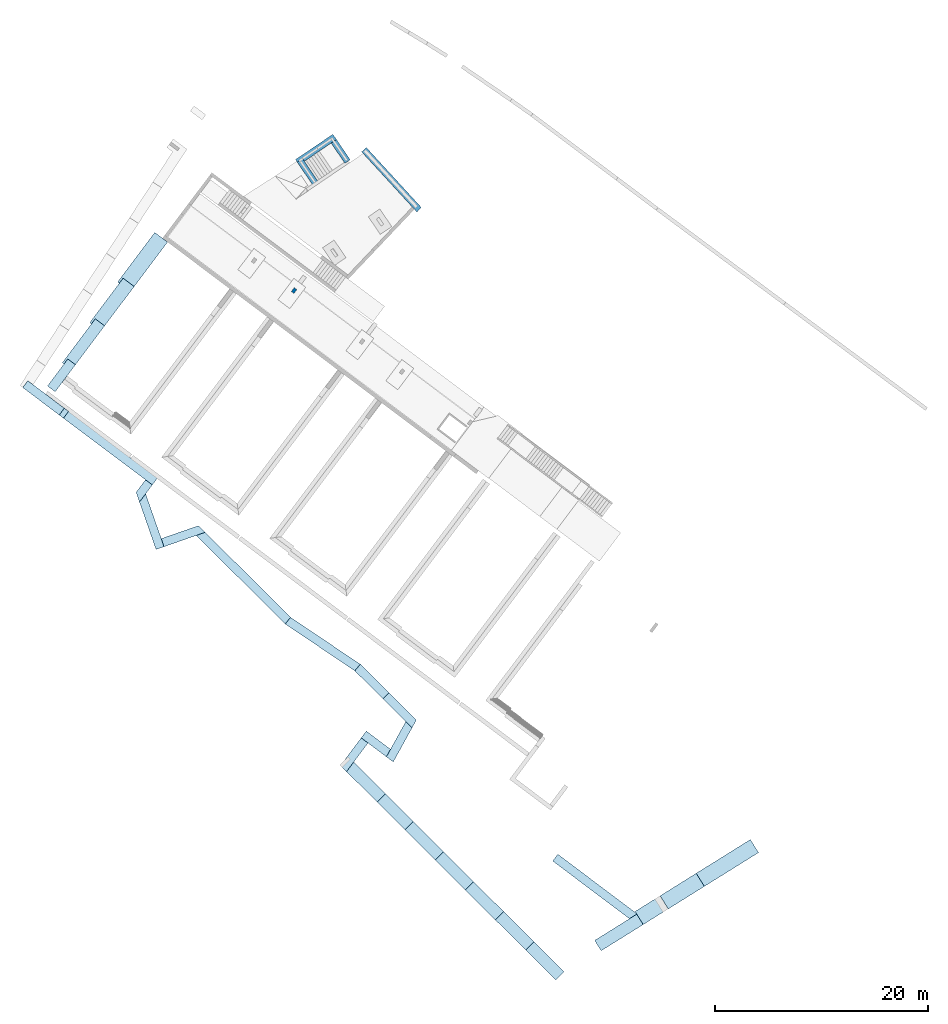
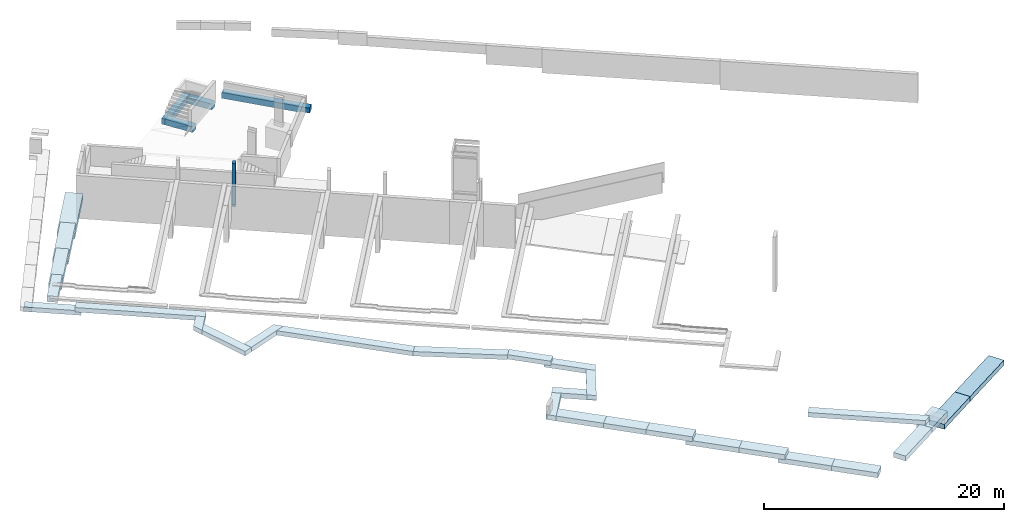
# One storey, part 1 of 11: 32 footings, 1 column.
"""IFC2X3 building model written with IfcOpenShell, lengths in metres."""

from ifc_helpers import new_model, entity, si_unit, converted_unit, derived_unit, direction, frame, frame_2d, origin, origin_2d_with_axis, place, context, subcontext, project, spatial, polyline, rectangle, outline, extrude, faceted_brep, source, transform, mapped, material, type_object, type_shapes, element, save


model = new_model("IFC2X3")

# Units and contexts
model_context = context("Model", 3, precision=1e-05, world=origin(), true_north=direction((6.123031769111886e-17, 1.0)))
body_context = subcontext(model_context, "Body", "Model", "MODEL_VIEW")
ifc_project = project(units=[si_unit("LENGTHUNIT", "METRE"), si_unit("AREAUNIT", "SQUARE_METRE"), si_unit("VOLUMEUNIT", "CUBIC_METRE"), converted_unit("PLANEANGLEUNIT", "DEGREE", entity("IfcRatioMeasure", 0.017453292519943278), si_unit("PLANEANGLEUNIT", "RADIAN"), dimensions=[0, 0, 0, 0, 0, 0, 0]), si_unit("MASSUNIT", "GRAM", prefix="KILO"), derived_unit("MASSDENSITYUNIT", [(si_unit("MASSUNIT", "GRAM", prefix="KILO"), 1), (si_unit("LENGTHUNIT", "METRE"), -3)]), derived_unit("IONCONCENTRATIONUNIT", [(si_unit("MASSUNIT", "GRAM", prefix="KILO"), 1), (si_unit("LENGTHUNIT", "METRE"), -3)]), derived_unit("MOMENTOFINERTIAUNIT", [(si_unit("LENGTHUNIT", "METRE"), 4)]), si_unit("TIMEUNIT", "SECOND"), si_unit("FREQUENCYUNIT", "HERTZ"), si_unit("THERMODYNAMICTEMPERATUREUNIT", "DEGREE_CELSIUS"), derived_unit("THERMALTRANSMITTANCEUNIT", [(si_unit("MASSUNIT", "GRAM", prefix="KILO"), 1), (si_unit("THERMODYNAMICTEMPERATUREUNIT", "KELVIN"), -1), (si_unit("TIMEUNIT", "SECOND"), -3)]), derived_unit("THERMALCONDUCTANCEUNIT", [(si_unit("MASSUNIT", "GRAM", prefix="KILO"), 1), (si_unit("THERMODYNAMICTEMPERATUREUNIT", "KELVIN"), -1), (si_unit("TIMEUNIT", "SECOND"), -3), (si_unit("LENGTHUNIT", "METRE"), 1)]), derived_unit("VOLUMETRICFLOWRATEUNIT", [(si_unit("LENGTHUNIT", "METRE"), 3), (si_unit("TIMEUNIT", "SECOND"), -1)]), derived_unit("MASSFLOWRATEUNIT", [(si_unit("MASSUNIT", "GRAM", prefix="KILO"), 1), (si_unit("TIMEUNIT", "SECOND"), -1)]), derived_unit("ROTATIONALFREQUENCYUNIT", [(si_unit("TIMEUNIT", "SECOND"), -1)]), si_unit("ELECTRICCURRENTUNIT", "AMPERE"), si_unit("ELECTRICVOLTAGEUNIT", "VOLT"), si_unit("POWERUNIT", "WATT"), si_unit("FORCEUNIT", "NEWTON", prefix="KILO"), si_unit("ILLUMINANCEUNIT", "LUX"), si_unit("LUMINOUSFLUXUNIT", "LUMEN"), si_unit("LUMINOUSINTENSITYUNIT", "CANDELA"), derived_unit("USERDEFINED", [(si_unit("MASSUNIT", "GRAM", prefix="KILO"), -1), (si_unit("LENGTHUNIT", "METRE"), -2), (si_unit("TIMEUNIT", "SECOND"), 3), (si_unit("LUMINOUSFLUXUNIT", "LUMEN"), 1)]), derived_unit("USERDEFINED", [(si_unit("MASSUNIT", "GRAM", prefix="KILO"), 1), (si_unit("TIMEUNIT", "SECOND"), -3), (si_unit("LENGTHUNIT", "METRE"), 3), (si_unit("ELECTRICCURRENTUNIT", "AMPERE"), -2)]), derived_unit("SOUNDPOWERUNIT", [(si_unit("MASSUNIT", "GRAM", prefix="KILO"), 1), (si_unit("TIMEUNIT", "SECOND"), -3), (si_unit("LENGTHUNIT", "METRE"), 2)]), derived_unit("SOUNDPRESSUREUNIT", [(si_unit("MASSUNIT", "GRAM", prefix="KILO"), 1), (si_unit("LENGTHUNIT", "METRE"), -1), (si_unit("TIMEUNIT", "SECOND"), -2)]), derived_unit("LINEARVELOCITYUNIT", [(si_unit("LENGTHUNIT", "METRE"), 1), (si_unit("TIMEUNIT", "SECOND"), -1)]), si_unit("PRESSUREUNIT", "PASCAL"), derived_unit("USERDEFINED", [(si_unit("MASSUNIT", "GRAM", prefix="KILO"), 1), (si_unit("LENGTHUNIT", "METRE"), -2), (si_unit("TIMEUNIT", "SECOND"), -2)]), derived_unit("LINEARFORCEUNIT", [(si_unit("MASSUNIT", "GRAM", prefix="KILO"), 1), (si_unit("TIMEUNIT", "SECOND"), -2)]), derived_unit("PLANARFORCEUNIT", [(si_unit("MASSUNIT", "GRAM", prefix="KILO"), 1), (si_unit("LENGTHUNIT", "METRE"), -1), (si_unit("TIMEUNIT", "SECOND"), -2)]), derived_unit("SPECIFICHEATCAPACITYUNIT", [(si_unit("THERMODYNAMICTEMPERATUREUNIT", "KELVIN"), -1), (si_unit("LENGTHUNIT", "METRE"), 2), (si_unit("TIMEUNIT", "SECOND"), -2)]), derived_unit("HEATINGVALUEUNIT", [(si_unit("LENGTHUNIT", "METRE"), 2), (si_unit("TIMEUNIT", "SECOND"), -2)]), derived_unit("VAPORPERMEABILITYUNIT", [(si_unit("LENGTHUNIT", "METRE"), -1), (si_unit("TIMEUNIT", "SECOND"), 1)]), derived_unit("DYNAMICVISCOSITYUNIT", [(si_unit("MASSUNIT", "GRAM", prefix="KILO"), 1), (si_unit("TIMEUNIT", "SECOND"), -1), (si_unit("LENGTHUNIT", "METRE"), -1)]), derived_unit("THERMALEXPANSIONCOEFFICIENTUNIT", [(si_unit("THERMODYNAMICTEMPERATUREUNIT", "KELVIN"), -1)]), derived_unit("MODULUSOFELASTICITYUNIT", [(si_unit("MASSUNIT", "GRAM", prefix="KILO"), 1), (si_unit("LENGTHUNIT", "METRE"), -1), (si_unit("TIMEUNIT", "SECOND"), -2)]), derived_unit("ISOTHERMALMOISTURECAPACITYUNIT", [(si_unit("LENGTHUNIT", "METRE"), 3), (si_unit("MASSUNIT", "GRAM", prefix="KILO"), -1)]), derived_unit("MOISTUREDIFFUSIVITYUNIT", [(si_unit("TIMEUNIT", "SECOND"), -1), (si_unit("LENGTHUNIT", "METRE"), 2)])], contexts=[model_context])

# Site, building, storey
site_placement = place(None, origin())
site = spatial("IfcSite", under=ifc_project, at=site_placement, Name="Default", CompositionType="ELEMENT")
building_placement = place(site_placement, frame((0.0, 0.0, 235.0), z_axis=(0.0, 0.0, 1.0), x_axis=(-0.7996477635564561, 0.6004693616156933, 0.0)))
building = spatial("IfcBuilding", under=site, at=building_placement, CompositionType="ELEMENT")
storey_placement = place(building_placement, frame((0.0, 0.0, -4.459999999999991)))
storey = spatial("IfcBuildingStorey", under=building, at=storey_placement, Name="PS1- Vestuari", CompositionType="ELEMENT", Elevation=-4.459999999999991)

# Footings
ifc_material = material(Name="_Formigó- T1- STR")
footing_1_placement = place(storey_placement, frame((57.015714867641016, -54.75195796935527, 0.30999999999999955)))
element("IfcFooting", 1, at=footing_1_placement, inside=storey, material=ifc_material, Name="Cimentación de muro:STR- S- Formigó- Sabata mur 60", ObjectType="Cimentación de muro:STR- S- Formigó- Sabata mur 60", PredefinedType="STRIP_FOOTING", context=body_context, shape_type="Brep", body=[
    faceted_brep([(7.6310820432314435, 0.589862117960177, 0.0), (7.6310820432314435, 0.589862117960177, 0.6000000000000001), (7.521251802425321, 0.0, 0.6000000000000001), (7.521251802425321, 0.0, 0.0), (0.7092681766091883, 1.8786793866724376, 0.6000000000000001), (0.41362097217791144, 1.933727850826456, 0.6000000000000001), (0.06869923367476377, 1.9979510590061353, 0.6000000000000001), (0.0, 1.4004304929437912, 0.6000000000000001), (1.0541899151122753, 1.8144561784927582, 0.0), (1.0541899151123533, 1.8144561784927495, 0.1), (0.7092681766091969, 1.8786793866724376, 0.1), (0.41362097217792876, 1.9337278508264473, 0.1), (0.06869923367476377, 1.9979510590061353, 0.1), (0.9854906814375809, 1.2169356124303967, 0.0), (0.0, 1.4004304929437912, 0.1), (0.9854906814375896, 1.2169356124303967, 0.1)], [[[0, 1, 2, 3]], [[1, 4, 5, 6, 7, 2]], [[1, 0, 8, 9, 10, 11, 12, 6, 5, 4]], [[0, 3, 13, 8]], [[3, 2, 7, 14, 15, 13]], [[7, 6, 12, 14]], [[9, 15, 14, 12, 11, 10]], [[15, 9, 8, 13]]]),
])
footing_2_placement = place(storey_placement, frame((66.24881883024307, -50.311702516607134, 0.30999999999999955)))
element("IfcFooting", 2, at=footing_2_placement, inside=storey, material=ifc_material, Name="Cimentación de muro:STR- S- Formigó- Sabata mur 60 mur 20", ObjectType="Cimentación de muro:STR- S- Formigó- Sabata mur 60 mur 20", PredefinedType="STRIP_FOOTING", context=body_context, shape_type="SweptSolid", body=[
    extrude(rectangle(XDim=2.5949999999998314, YDim=0.5999999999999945, at=frame_2d((0.19949999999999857, -0.06000000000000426), x_axis=(1.0, 0.0))), frame((1.4939650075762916, 0.5829637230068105, 0.0), z_axis=(0.0, 0.0, 1.0), x_axis=(-0.9460037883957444, 0.3241555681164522, 0.0)), (0.0, 0.0, 1.0), 0.5999999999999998),
])
footing_3_placement = place(storey_placement, frame((67.23672970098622, -53.86186301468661, 0.30999999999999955)))
element("IfcFooting", 3, at=footing_3_placement, inside=storey, material=ifc_material, Name="Cimentación de muro:STR- S- Formigó- Sabata mur 60 mur 20", ObjectType="Cimentación de muro:STR- S- Formigó- Sabata mur 60 mur 20", PredefinedType="STRIP_FOOTING", context=body_context, shape_type="SweptSolid", body=[
    extrude(outline(polyline([(-0.34285714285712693, -1.9071428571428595), (-0.04285714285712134, -1.9071428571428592), (-0.042857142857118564, -1.3071428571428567), (0.25714285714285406, -1.3071428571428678), (0.2571428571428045, 1.7428571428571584), (0.2571428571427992, 2.342857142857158), (-0.3428571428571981, 2.342857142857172), (-0.34285714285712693, -1.9071428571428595)])), frame((1.0027083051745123, 2.3274907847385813, 0.0), z_axis=(0.0, 0.0, 1.0), x_axis=(-0.9460037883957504, 0.32415556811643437, 0.0)), (0.0, 0.0, 1.0), 0.6000000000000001),
])
footing_4_placement = place(storey_placement, frame((65.06565100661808, -53.667369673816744, 0.30999999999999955)))
element("IfcFooting", 4, at=footing_4_placement, inside=storey, material=ifc_material, Name="Cimentación de muro:STR- S- Formigó- Sabata mur 60 mur 20", ObjectType="Cimentación de muro:STR- S- Formigó- Sabata mur 60 mur 20", PredefinedType="STRIP_FOOTING", context=body_context, shape_type="SweptSolid", body=[
    extrude(rectangle(XDim=2.2949999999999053, YDim=0.5999999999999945, at=frame_2d((-9.547918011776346e-15, 1.304512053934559e-15), x_axis=(1.0, 0.0))), frame((1.182786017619, 0.6557696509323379, 0.0), z_axis=(0.0, 0.0, 1.0), x_axis=(0.9460037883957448, -0.32415556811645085, 0.0)), (0.0, 0.0, 1.0), 0.6),
])
footing_5_placement = place(storey_placement, frame((74.14514768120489, -21.99019175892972, 3.289999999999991)))
element("IfcFooting", 5, at=footing_5_placement, inside=storey, material=ifc_material, Name="Cimentación de muro:STR- S- Formigó- Sabata mur 90", ObjectType="Cimentación de muro:STR- S- Formigó- Sabata mur 90", PredefinedType="STRIP_FOOTING", context=body_context, shape_type="SweptSolid", body=[
    extrude(rectangle(XDim=3.180000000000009, YDim=0.9000000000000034, at=frame_2d((-0.1262499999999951, 0.11250000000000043), x_axis=(1.0, 0.0))), frame((0.33750000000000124, 1.4637500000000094, 0.0), z_axis=(0.0, 0.0, 1.0), x_axis=(0.0, -1.0, 0.0)), (0.0, 0.0, 1.0), 0.6),
])
footing_6_placement = place(storey_placement, frame((74.14514768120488, -26.56519175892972, 2.759999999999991)))
element("IfcFooting", 6, at=footing_6_placement, inside=storey, material=ifc_material, Name="Cimentación de muro:STR- S- Formigó- Sabata mur 110- T1", ObjectType="Cimentación de muro:STR- S- Formigó- Sabata mur 110- T1", PredefinedType="STRIP_FOOTING", context=body_context, shape_type="Brep", body=[
    faceted_brep([(1.1000000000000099, 5.175000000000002, 0.6000000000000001), (1.1000000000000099, 5.175000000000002, 0.0), (0.0, 5.175000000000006, 0.0), (0.0, 5.175000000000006, 0.5300000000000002), (0.900000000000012, 5.175000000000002, 0.5300000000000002), (0.900000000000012, 5.175000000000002, 0.6000000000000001), (1.1000000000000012, 0.0, 0.0), (1.1000000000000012, 0.0, 0.6000000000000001), (0.0, 0.0, 0.6000000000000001), (0.0, 0.0, 0.0), (0.900000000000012, 4.574999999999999, 0.6000000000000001), (0.0, 4.574999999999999, 0.6000000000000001), (0.0, 0.6000000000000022, 0.0), (0.0, 4.574999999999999, 0.5300000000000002), (0.900000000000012, 4.574999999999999, 0.5300000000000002)], [[[0, 1, 2, 3, 4, 5]], [[6, 7, 8, 9]], [[7, 0, 5, 10, 11, 8]], [[1, 0, 7, 6]], [[2, 1, 6, 9, 12]], [[9, 8, 11, 13, 3, 2, 12]], [[14, 13, 11, 10]], [[14, 10, 5, 4]], [[13, 14, 4, 3]]]),
])
footing_7_placement = place(storey_placement, frame((74.14514768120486, -31.190191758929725, 2.1599999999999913)))
element("IfcFooting", 7, at=footing_7_placement, inside=storey, material=ifc_material, Name="Cimentación de muro:STR- S- Formigó- Sabata mur 130 t2 2", ObjectType="Cimentación de muro:STR- S- Formigó- Sabata mur 130 t2 2", PredefinedType="STRIP_FOOTING", context=body_context, shape_type="SweptSolid", body=[
    extrude(rectangle(XDim=5.225, YDim=1.299999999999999, at=frame_2d((-0.40250000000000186, 0.13000000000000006), x_axis=(1.0, 0.0))), frame((0.5200000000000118, 2.2100000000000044, 0.0), z_axis=(0.0, 0.0, 1.0), x_axis=(0.0, -1.0, 0.0)), (0.0, 0.0, 1.0), 0.5999999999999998),
])
footing_8_placement = place(storey_placement, frame((74.14514768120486, -36.41519175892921, 1.5599999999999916)))
element("IfcFooting", 8, at=footing_8_placement, inside=storey, material=ifc_material, Name="Cimentación de muro:STR- S- Formigó- Sabata mur 150 t3", ObjectType="Cimentación de muro:STR- S- Formigó- Sabata mur 150 t3", PredefinedType="STRIP_FOOTING", context=body_context, shape_type="SweptSolid", body=[
    extrude(rectangle(XDim=5.824999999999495, YDim=1.499999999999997, at=origin_2d_with_axis()), frame((0.7500000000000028, 2.9124999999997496, 0.0), z_axis=(0.0, 0.0, 1.0), x_axis=(0.0, -1.0, 0.0)), (0.0, 0.0, 1.0), 0.6000000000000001),
])
footing_9_placement = place(storey_placement, frame((61.58180321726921, -18.093410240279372, 3.509999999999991)))
element("IfcFooting", 9, at=footing_9_placement, inside=storey, material=ifc_material, Name="Cimentación de muro:STR- S- Formigó- Sabata 80- m30-h45", ObjectType="Cimentación de muro:STR- S- Formigó- Sabata 80- m30-h45", PredefinedType="STRIP_FOOTING", context=body_context, shape_type="SweptSolid", body=[
    extrude(rectangle(XDim=10.943239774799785, YDim=0.8, at=frame_2d((-0.9343239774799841, 0.07999999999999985), x_axis=(1.0, 0.0))), frame((4.537295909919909, 0.48000000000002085, 0.0), z_axis=(0.0, 0.0, 1.0), x_axis=(-1.0, 0.0, 0.0)), (0.0, 0.0, 1.0), 0.44999999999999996),
])
footing_10_placement = place(storey_placement, frame((72.02504299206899, -18.093422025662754, 3.209999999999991)))
element("IfcFooting", 10, at=footing_10_placement, inside=storey, material=ifc_material, Name="Cimentación de muro:STR- S- Formigó- Sabata 80- m30-h45", ObjectType="Cimentación de muro:STR- S- Formigó- Sabata 80- m30-h45", PredefinedType="STRIP_FOOTING", context=body_context, shape_type="SweptSolid", body=[
    extrude(outline(polyline([(-3.0338265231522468, -0.25), (1.7669132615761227, -0.25), (1.7669132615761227, 0.05000000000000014), (1.2669132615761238, 0.05000000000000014), (1.2669132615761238, 0.2), (-3.0338265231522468, 0.2), (-3.0338265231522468, -0.25)])), frame((1.7669132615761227, 0.0, 0.25), z_axis=(0.0, 1.0, 0.0), x_axis=(-1.0, 0.0, 0.0)), (0.0, 0.0, 1.0), 0.8),
])
footing_11_placement = place(storey_placement, frame((61.58180321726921, -17.293410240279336, 3.509999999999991)))
element("IfcFooting", 11, at=footing_11_placement, inside=storey, material=ifc_material, Name="Cimentación de muro:STR- S- Formigó- Sabata 80- m30-h45", ObjectType="Cimentación de muro:STR- S- Formigó- Sabata 80- m30-h45", PredefinedType="STRIP_FOOTING", context=body_context, shape_type="SweptSolid", body=[
    extrude(outline(polyline([(-1.1032413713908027, -0.31999999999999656), (-0.13956908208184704, -0.31999999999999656), (0.9043884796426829, -0.31999999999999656), (0.904388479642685, 0.4800000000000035), (-0.5659665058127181, 0.4800000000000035), (-1.1032413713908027, -0.31999999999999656)])), frame((0.3199999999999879, 0.904388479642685, 0.0), z_axis=(0.0, 0.0, 1.0), x_axis=(0.0, -1.0, 0.0)), (0.0, 0.0, 1.0), 0.44999999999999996),
])
footing_12_placement = place(storey_placement, frame((57.20747274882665, -16.249452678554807, 3.509999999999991)))
element("IfcFooting", 12, at=footing_12_placement, inside=storey, material=ifc_material, Name="Cimentación de muro:STR- S- Formigó- Sabata 80- m30-h45", ObjectType="Cimentación de muro:STR- S- Formigó- Sabata 80- m30-h45", PredefinedType="STRIP_FOOTING", context=body_context, shape_type="SweptSolid", body=[
    extrude(outline(polyline([(-1.999018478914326, -2.402568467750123), (-1.0353461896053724, -2.402568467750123), (1.602879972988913, 1.525739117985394), (0.9387537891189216, 1.9717620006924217), (0.4927309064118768, 1.3076358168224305), (-1.999018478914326, -2.402568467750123)])), frame((1.9717620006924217, 1.999018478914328, 0.0), z_axis=(0.0, 0.0, 1.0), x_axis=(0.0, 1.0, 0.0)), (0.0, 0.0, 1.0), 0.44999999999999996),
])
footing_13_placement = place(storey_placement, frame((54.922062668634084, -16.83832788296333, 3.509999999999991)))
element("IfcFooting", 13, at=footing_13_placement, inside=storey, material=ifc_material, Name="Cimentación de muro:STR- S- Formigó- Sabata 80- m30-h45", ObjectType="Cimentación de muro:STR- S- Formigó- Sabata 80- m30-h45", PredefinedType="STRIP_FOOTING", context=body_context, shape_type="SweptSolid", body=[
    extrude(outline(polyline([(-1.5068909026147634, -0.4799999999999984), (2.2039997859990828, -0.47999999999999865), (2.203999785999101, 0.3199999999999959), (-1.0059284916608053, 0.32000000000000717), (-1.8951801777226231, 0.3200000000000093), (-1.5068909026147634, -0.4799999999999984)])), frame((1.3222676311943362, 1.5185708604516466, 0.0), z_axis=(0.0, 0.0, 1.0), x_axis=(0.5575286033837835, 0.8301577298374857, 0.0)), (0.0, 0.0, 1.0), 0.44999999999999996),
])
footing_14_placement = place(storey_placement, frame((43.70030007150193, -16.71464634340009, 3.509999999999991)))
element("IfcFooting", 14, at=footing_14_placement, inside=storey, material=ifc_material, Name="Cimentación de muro:STR- S- Formigó- Sabata 80- m30-h45", ObjectType="Cimentación de muro:STR- S- Formigó- Sabata 80- m30-h45", PredefinedType="STRIP_FOOTING", context=body_context, shape_type="SweptSolid", body=[
    extrude(outline(polyline([(-5.743814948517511, -0.40000000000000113), (5.588088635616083, -0.39999999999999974), (5.976377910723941, 0.4000000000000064), (-5.820651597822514, 0.40000000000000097), (-5.743814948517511, -0.40000000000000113)])), frame((5.743621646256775, 1.173331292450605, 0.0), z_axis=(0.0, 0.0, 1.0), x_axis=(0.9902804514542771, -0.13908496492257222, 0.0)), (0.0, 0.0, 1.0), 0.44999999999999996),
])
footing_15_placement = place(storey_placement, frame((35.81381563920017, -15.54875412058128, 3.509999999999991)))
element("IfcFooting", 15, at=footing_15_placement, inside=storey, material=ifc_material, Name="Cimentación de muro:STR- S- Formigó- Sabata 80- m30-h45", ObjectType="Cimentación de muro:STR- S- Formigó- Sabata 80- m30-h45", PredefinedType="STRIP_FOOTING", context=body_context, shape_type="SweptSolid", body=[
    extrude(outline(polyline([(-0.024334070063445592, -3.930485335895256), (0.7793473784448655, -3.930485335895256), (0.024334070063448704, 3.9304853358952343), (-0.7793473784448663, 3.9304853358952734), (-0.024334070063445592, -3.930485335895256)])), frame((3.9608312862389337, 0.6065581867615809, 0.0), z_axis=(0.0, 0.0, 1.0), x_axis=(0.04377124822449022, 0.9990415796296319, 0.0)), (0.0, 0.0, 1.0), 0.4499999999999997),
])
footing_16_placement = place(storey_placement, frame((32.042413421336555, -15.548754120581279, 3.5699999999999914)))
element("IfcFooting", 16, at=footing_16_placement, inside=storey, material=ifc_material, Name="Cimentación de muro:STR- S- Formigó- Sabata 80- m30-h45", ObjectType="Cimentación de muro:STR- S- Formigó- Sabata 80- m30-h45", PredefinedType="STRIP_FOOTING", context=body_context, shape_type="SweptSolid", body=[
    extrude(outline(polyline([(-1.456666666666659, -0.39999999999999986), (-0.8566666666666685, -0.4000000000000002), (2.3517516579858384, -0.3999999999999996), (2.27491500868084, 0.40000000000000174), (-0.8566666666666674, 0.4000000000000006), (-1.456666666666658, 0.4000000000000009), (-1.456666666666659, -0.39999999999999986)])), frame((1.4981425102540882, 0.7232054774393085, 0.0), z_axis=(0.0, 0.0, 1.0), x_axis=(0.9902804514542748, -0.1390849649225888, 0.0)), (0.0, 0.0, 1.0), 0.4499999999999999),
])
footing_17_placement = place(storey_placement, frame((28.328113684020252, -15.102511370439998, 3.329999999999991)))
element("IfcFooting", 17, at=footing_17_placement, inside=storey, material=ifc_material, Name="Cimentación de muro:STR- S- Formigó- Sabata 80- m30-h45", ObjectType="Cimentación de muro:STR- S- Formigó- Sabata 80- m30-h45", PredefinedType="STRIP_FOOTING", context=body_context, shape_type="Brep", body=[
    faceted_brep([(4.308468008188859, 0.0, 0.0), (4.419735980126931, 0.7922243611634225, 0.0), (4.419735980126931, 0.7922243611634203, 0.23999999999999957), (4.308468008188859, 0.0, 0.23999999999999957), (0.0, 1.4129766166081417, 0.4499999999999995), (0.11689019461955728, 0.5887074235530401, 0.4499999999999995), (3.714299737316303, 0.08345097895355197, 0.4499999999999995), (3.825567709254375, 0.8756753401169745, 0.4499999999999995), (0.8244243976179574, 1.297186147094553, 0.4499999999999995), (0.11689019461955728, 0.5887074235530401, 0.0), (3.714299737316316, 0.08345097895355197, 0.23999999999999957), (0.0, 1.4129766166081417, 0.0), (0.8244243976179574, 1.297186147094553, 0.0), (3.8255677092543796, 0.8756753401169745, 0.23999999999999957)], [[[0, 1, 2, 3]], [[4, 5, 6, 7, 8]], [[9, 0, 3, 10, 6, 5]], [[1, 0, 9, 11, 12]], [[1, 12, 11, 4, 8, 7, 13, 2]], [[10, 13, 7, 6]], [[13, 10, 3, 2]], [[5, 4, 11, 9]]]),
])
footing_18_placement = place(storey_placement, frame((27.81410587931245, -13.805325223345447, 3.329999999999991)))
element("IfcFooting", 18, at=footing_18_placement, inside=storey, material=ifc_material, Name="Cimentación de muro:STR- S- Formigó- Sabata 80- m30-h45", ObjectType="Cimentación de muro:STR- S- Formigó- Sabata 80- m30-h45", PredefinedType="STRIP_FOOTING", context=body_context, shape_type="SweptSolid", body=[
    extrude(outline(polyline([(-1.565840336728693, -0.4000000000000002), (-0.7578362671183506, -0.40000000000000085), (2.0950292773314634, -0.40000000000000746), (2.3254268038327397, 0.3999999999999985), (-0.6443877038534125, 0.400000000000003), (-1.4523917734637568, 0.40000000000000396), (-1.565840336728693, -0.4000000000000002)])), frame((0.6158908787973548, 2.2462288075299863, 0.0), z_axis=(0.0, 0.0, 1.0), x_axis=(0.14040593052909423, -0.9900940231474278, 0.0)), (0.0, 0.0, 1.0), 0.4499999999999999),
])
footing_19_placement = place(storey_placement, frame((27.814105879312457, -10.864929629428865, 3.2799999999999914)))
element("IfcFooting", 19, at=footing_19_placement, inside=storey, material=ifc_material, Name="Cimentación de muro:STR- S- Formigó- Sabata 80- m30-h50", ObjectType="Cimentación de muro:STR- S- Formigó- Sabata 80- m30-h50", PredefinedType="STRIP_FOOTING", context=body_context, shape_type="Brep", body=[
    faceted_brep([(3.7692543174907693, 0.0, 0.5), (3.7692543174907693, 0.8, 0.5), (2.9692543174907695, 0.8, 0.5), (0.8080040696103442, 0.8, 0.5), (0.921452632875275, 0.0, 0.5), (0.11344856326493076, 0.0, 0.0), (3.7692543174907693, 0.0, 0.0), (0.921452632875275, 0.0, 0.050000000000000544), (0.11344856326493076, 0.0, 0.050000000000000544), (0.0, 0.8, 0.0), (2.9692543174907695, 0.8, 0.0), (3.7692543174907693, 0.8, 0.0), (0.0, 0.8, 0.050000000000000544), (0.8080040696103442, 0.8, 0.050000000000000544)], [[[0, 1, 2, 3, 4]], [[5, 6, 0, 4, 7, 8]], [[6, 5, 9, 10, 11]], [[11, 10, 9, 12, 13, 3, 2, 1]], [[9, 5, 8, 12]], [[13, 7, 4, 3]], [[7, 13, 12, 8]], [[1, 0, 6, 11]]]),
])
footing_20_placement = place(storey_placement, frame((30.783360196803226, -10.064929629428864, 3.2799999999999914)))
element("IfcFooting", 20, at=footing_20_placement, inside=storey, material=ifc_material, Name="Cimentación de muro:STR- S- Formigó- Sabata 80- m30-h50", ObjectType="Cimentación de muro:STR- S- Formigó- Sabata 80- m30-h50", PredefinedType="STRIP_FOOTING", context=body_context, shape_type="SweptSolid", body=[
    extrude(outline(polyline([(-1.4508035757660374, -0.4), (-0.340007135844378, -0.4), (1.9114513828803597, -0.4), (1.9114513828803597, 0.4), (-0.6936485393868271, 0.4), (-1.3384435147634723, 0.4), (-1.4508035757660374, -0.4)])), frame((0.4, 1.9114513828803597, 0.0), z_axis=(0.0, 0.0, 1.0), x_axis=(0.0, -1.0, 0.0)), (0.0, 0.0, 1.0), 0.5),
])
footing_21_placement = place(storey_placement, frame((-1.1667254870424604, -15.064560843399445, 1.0350000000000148)))
element("IfcFooting", 21, at=footing_21_placement, inside=storey, material=ifc_material, Name="Cimentación de muro:STR- S- Formigó- Sabata MP1 +2m", ObjectType="Cimentación de muro:STR- S- Formigó- Sabata MP1 +2m", PredefinedType="STRIP_FOOTING", context=body_context, shape_type="SweptSolid", body=[
    extrude(rectangle(XDim=2.7763893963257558, YDim=1.4500000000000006, at=frame_2d((-0.19704867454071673, -0.006263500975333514), x_axis=(1.0, 0.0))), frame((1.1116305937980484, 1.3701938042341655, 0.0), z_axis=(0.0, 0.0, 1.0), x_axis=(-0.3606427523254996, -0.9327040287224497, 0.0)), (0.0, 0.0, 1.0), 0.5),
])
footing_22_placement = place(storey_placement, frame((-2.6097684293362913, -18.796597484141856, 0.03500000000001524)))
element("IfcFooting", 22, at=footing_22_placement, inside=storey, material=ifc_material, Name="Cimentación de muro:STR- S- Formigó- Sabata MP1 +2m", ObjectType="Cimentación de muro:STR- S- Formigó- Sabata MP1 +2m", PredefinedType="STRIP_FOOTING", context=body_context, shape_type="SweptSolid", body=[
    extrude(rectangle(XDim=4.601308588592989, YDim=1.4500000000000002, at=frame_2d((-1.1102230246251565e-15, -5.551115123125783e-17), x_axis=(1.0, 0.0))), frame((1.5059247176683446, 2.407295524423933, 0.0), z_axis=(0.0, 0.0, 1.0), x_axis=(0.36064275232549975, 0.9327040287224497, 0.0)), (0.0, 0.0, 1.0), 0.5),
])
footing_23_placement = place(storey_placement, frame((-4.774410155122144, -24.39485239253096, 0.03500000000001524)))
element("IfcFooting", 23, at=footing_23_placement, inside=storey, material=ifc_material, Name="Cimentación de muro:STR- S- Formigó- Sabata MP1 +2m", ObjectType="Cimentación de muro:STR- S- Formigó- Sabata MP1 +2m", PredefinedType="STRIP_FOOTING", context=body_context, shape_type="SweptSolid", body=[
    extrude(rectangle(XDim=6.00217725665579, YDim=1.4499999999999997, at=frame_2d((-1.5323888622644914, 0.04166666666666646), x_axis=(1.0, 0.0))), frame((1.1670236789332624, 1.64635496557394, 0.0), z_axis=(0.0, 0.0, 1.0), x_axis=(-0.36064275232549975, -0.9327040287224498, 0.0)), (0.0, 0.0, 1.0), 0.49999999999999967),
])
footing_24_placement = place(storey_placement, frame((-0.16532474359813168, -12.366821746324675, 1.0350000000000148)))
element("IfcFooting", 24, at=footing_24_placement, inside=storey, material=ifc_material, Name="Cimentación de muro:STR- S- Formigó- Sabata MP -1 i 2 m", ObjectType="Cimentación de muro:STR- S- Formigó- Sabata MP -1 i 2 m", PredefinedType="STRIP_FOOTING", context=body_context, shape_type="SweptSolid", body=[
    extrude(rectangle(XDim=4.663568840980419, YDim=1.1499999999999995, at=frame_2d((-4.440892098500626e-16, -1.1102230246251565e-16), x_axis=(1.0, 0.0))), frame((1.3772531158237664, 2.382233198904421, 0.0), z_axis=(0.0, 0.0, 1.0), x_axis=(0.3606461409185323, 0.9327027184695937, 0.0)), (0.0, 0.0, 1.0), 0.4999999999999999),
])
footing_25_placement = place(storey_placement, frame((3.1316862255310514, -4.486131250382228, 2.4799999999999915)))
element("IfcFooting", 25, at=footing_25_placement, inside=storey, material=ifc_material, Name="Cimentación de muro:STR- S- Formigó- Sabata MP -1 i 2 m", ObjectType="Cimentación de muro:STR- S- Formigó- Sabata MP -1 i 2 m", PredefinedType="STRIP_FOOTING", context=body_context, shape_type="SweptSolid", body=[
    extrude(rectangle(XDim=3.999999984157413, YDim=1.0999999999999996, at=frame_2d((2.220446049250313e-16, 5.551115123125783e-17), x_axis=(1.0, 0.0))), frame((2.057057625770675, 0.8228241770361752, 0.0), z_axis=(0.0, 0.0, 1.0), x_axis=(0.9902804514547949, -0.13908496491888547, 0.0)), (0.0, 0.0, 1.0), 0.5),
])
footing_26_placement = place(storey_placement, frame((11.053929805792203, -5.598810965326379, 2.8799999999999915)))
element("IfcFooting", 26, at=footing_26_placement, inside=storey, material=ifc_material, Name="Cimentación de muro:STR- S- Formigó- Sabata MP -1 i 2 m", ObjectType="Cimentación de muro:STR- S- Formigó- Sabata MP -1 i 2 m", PredefinedType="STRIP_FOOTING", context=body_context, shape_type="SweptSolid", body=[
    extrude(rectangle(XDim=3.999999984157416, YDim=1.0999999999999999, at=frame_2d((0.4666666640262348, 2.220446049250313e-16), x_axis=(1.0, 0.0))), frame((1.5949267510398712, 0.8877304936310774, 0.0), z_axis=(0.0, 0.0, 1.0), x_axis=(0.9902804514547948, -0.13908496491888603, 0.0)), (0.0, 0.0, 1.0), 0.5),
])
footing_27_placement = place(storey_placement, frame((18.97617338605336, -6.711490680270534, 3.2799999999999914)))
element("IfcFooting", 27, at=footing_27_placement, inside=storey, material=ifc_material, Name="Cimentación de muro:STR- S- Formigó- Sabata MP -1 i 2 m", ObjectType="Cimentación de muro:STR- S- Formigó- Sabata MP -1 i 2 m", PredefinedType="STRIP_FOOTING", context=body_context, shape_type="SweptSolid", body=[
    extrude(rectangle(XDim=3.9999999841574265, YDim=1.0999999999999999, at=frame_2d((0.4666666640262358, 3.885780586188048e-16), x_axis=(1.0, 0.0))), frame((1.5949267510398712, 0.8877304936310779, 0.0), z_axis=(0.0, 0.0, 1.0), x_axis=(0.9902804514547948, -0.13908496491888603, 0.0)), (0.0, 0.0, 1.0), 0.5),
])
footing_28_placement = place(storey_placement, frame((26.601332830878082, -7.8134711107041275, 3.2799999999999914)))
element("IfcFooting", 28, at=footing_28_placement, inside=storey, material=ifc_material, Name="Cimentación de muro:STR- S- Formigó- Sabata MP -1 i 2 m", ObjectType="Cimentación de muro:STR- S- Formigó- Sabata MP -1 i 2 m", PredefinedType="STRIP_FOOTING", context=body_context, shape_type="SweptSolid", body=[
    extrude(outline(polyline([(-2.072913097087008, -0.5500000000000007), (2.1501606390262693, -0.5500000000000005), (1.9956655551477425, 0.5499999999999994), (-2.0729130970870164, 0.5499999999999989), (-2.072913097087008, -0.5500000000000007)])), frame((2.1292620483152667, 0.8437092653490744, 0.0), z_axis=(0.0, 0.0, 1.0), x_axis=(0.9902804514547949, -0.13908496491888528, 0.0)), (0.0, 0.0, 1.0), 0.5),
    extrude(outline(polyline([(-0.02989376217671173, -0.21284261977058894), (0.059787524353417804, -0.21284261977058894), (-0.02989376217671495, 0.4256852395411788), (-0.02989376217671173, -0.21284261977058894)])), frame((5.011630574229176, 0.7793469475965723, 0.0), z_axis=(0.0, 0.0, 1.0), x_axis=(-0.9902804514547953, 0.13908496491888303, 0.0)), (0.0, 0.0, 1.0), 0.5),
])
footing_29_placement = place(storey_placement, frame((7.092808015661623, -5.1259220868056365, 2.4799999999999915)))
element("IfcFooting", 29, at=footing_29_placement, inside=storey, material=ifc_material, Name="Cimentación de muro:STR- S- Formigó- Sabata MP -1 i 2 m", ObjectType="Cimentación de muro:STR- S- Formigó- Sabata MP -1 i 2 m", PredefinedType="STRIP_FOOTING", context=body_context, shape_type="SweptSolid", body=[
    extrude(outline(polyline([(-2.8666666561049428, -0.20000000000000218), (1.1333333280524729, -0.19999999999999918), (1.1333333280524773, -0.0999999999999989), (1.7333333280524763, -0.09999999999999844), (1.7333333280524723, 0.3000000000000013), (-2.8666666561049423, 0.2999999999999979), (-2.8666666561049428, -0.20000000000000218)])), frame((2.83880395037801, 0.24108060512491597, 0.30000000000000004), z_axis=(0.13908496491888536, 0.9902804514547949, 0.0), x_axis=(0.9902804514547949, -0.13908496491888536, 0.0)), (0.0, 0.0, 1.0), 1.1000000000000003),
])
footing_30_placement = place(storey_placement, frame((15.01505159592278, -6.238601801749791, 2.8799999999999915)))
element("IfcFooting", 30, at=footing_30_placement, inside=storey, material=ifc_material, Name="Cimentación de muro:STR- S- Formigó- Sabata MP -1 i 2 m", ObjectType="Cimentación de muro:STR- S- Formigó- Sabata MP -1 i 2 m", PredefinedType="STRIP_FOOTING", context=body_context, shape_type="SweptSolid", body=[
    extrude(outline(polyline([(-2.8666666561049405, -0.20000000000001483), (1.1333333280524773, -0.19999999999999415), (1.1333333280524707, -0.09999999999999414), (1.733333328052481, -0.09999999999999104), (1.7333333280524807, 0.300000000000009), (-2.8666666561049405, 0.2999999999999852), (-2.8666666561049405, -0.20000000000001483)])), frame((2.838803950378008, 0.24108060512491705, 0.30000000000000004), z_axis=(0.13908496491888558, 0.9902804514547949, 0.0), x_axis=(0.9902804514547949, -0.13908496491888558, 0.0)), (0.0, 0.0, 1.0), 1.100000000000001),
])
footing_31_placement = place(storey_placement, frame((22.937295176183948, -7.226105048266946, 3.2799999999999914)))
element("IfcFooting", 31, at=footing_31_placement, inside=storey, material=ifc_material, Name="Cimentación de muro:STR- S- Formigó- Sabata MP -1 i 2 m", ObjectType="Cimentación de muro:STR- S- Formigó- Sabata MP -1 i 2 m", PredefinedType="STRIP_FOOTING", context=body_context, shape_type="SweptSolid", body=[
    extrude(rectangle(XDim=3.69999998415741, YDim=1.0999999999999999, at=frame_2d((-1.887379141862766e-15, -1.3322676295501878e-15), x_axis=(1.0, 0.0))), frame((1.9085155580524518, 0.8019614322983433, 0.0), z_axis=(0.0, 0.0, 1.0), x_axis=(0.9902804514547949, -0.1390849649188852, 0.0)), (0.0, 0.0, 1.0), 0.5),
])
footing_32_placement = place(storey_placement, frame((0.12740939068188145, -12.415191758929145, 2.0099999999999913)))
element("IfcFooting", 32, at=footing_32_placement, inside=storey, material=ifc_material, Name="Cimentación de muro:STR- S- Formigó- Sabata 80- m30-h45", ObjectType="Cimentación de muro:STR- S- Formigó- Sabata 80- m30-h45", PredefinedType="STRIP_FOOTING", context=body_context, shape_type="SweptSolid", body=[
    extrude(outline(polyline([(-6.0160864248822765, -0.430000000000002), (3.8688691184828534, -0.43000000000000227), (4.081651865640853, 0.1199999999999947), (4.081651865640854, 0.36999999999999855), (-6.016086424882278, 0.36999999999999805), (-6.0160864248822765, -0.430000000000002)])), frame((4.081651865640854, 0.3700000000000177, 0.0), z_axis=(0.0, 0.0, 1.0), x_axis=(-1.0, 0.0, 0.0)), (0.0, 0.0, 1.0), 0.4499999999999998),
])

# Column
column_type = type_object("IfcColumnType", Name="STR- P- Formigó- Rectangular- T1:30x45cm", PredefinedType="COLUMN", material=ifc_material)
shared_shape = source(origin(), body_context, "Body", "SweptSolid", [
    extrude(rectangle(XDim=0.4500000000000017, YDim=0.3000000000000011, at=origin_2d_with_axis()), frame((61.895147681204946, -39.91519175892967, -4.899999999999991), z_axis=(0.0, 0.0, 1.0), x_axis=(0.0, -1.0, 0.0)), (0.0, 0.0, 1.0), 0.08999999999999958),
    extrude(rectangle(XDim=0.4500000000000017, YDim=0.3000000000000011, at=origin_2d_with_axis()), frame((61.895147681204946, -39.91519175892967, -4.659999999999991), z_axis=(0.0, 0.0, 1.0), x_axis=(0.0, -1.0, 0.0)), (0.0, 0.0, 1.0), 4.139999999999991),
])
type_shapes(column_type, [shared_shape])
column_placement = place(storey_placement, frame((0.0, 0.0, 4.459999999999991)))
element("IfcColumn", 33, at=column_placement, inside=storey, type_object=column_type, material=ifc_material, Name="STR- P- Formigó- Rectangular- T1:30x45cm", ObjectType="STR- P- Formigó- Rectangular- T1:30x45cm", context=body_context, shape_type="MappedRepresentation", body=[
    mapped(shared_shape, transform((0.0, 0.0, 0.0), scale=1.0)),
])

save(model, "model.ifc")
